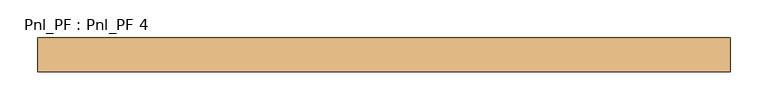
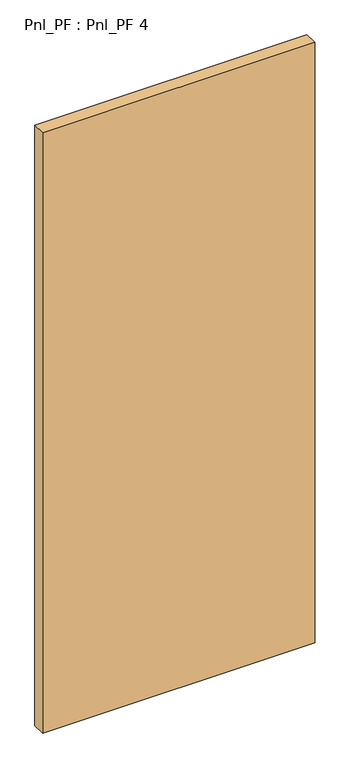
"""IFC4 building model written with IfcOpenShell, lengths in millimetres: door geometry, Pnl_PF : Pnl_PF 4."""

from ifc_helpers import new_model, si_unit, origin, origin_with_axes, place, context, project, spatial, polyline, outline, extrude, source, transform, mapped, element, save


def pnl_pf_pnl_pf_4_695aecbf(model_context):
    return source(origin(), model_context, "Body", "SweptSolid", [
        extrude(outline(polyline([(914.4, -44.45), (0.0, -44.45), (0.0, 0.0), (914.4, 0.0), (914.4, -44.45)])), origin_with_axes(), (0.0, 0.0, 1.0), 2133.6),
    ])


if __name__ == "__main__":
    model = new_model("IFC4")
    model_context = context("Model", 3, world=origin())
    ifc_project = project(units=[si_unit("LENGTHUNIT", "METRE", prefix="MILLI")], contexts=[model_context])
    site = spatial("IfcSite", under=ifc_project)
    building = spatial("IfcBuilding", under=site)
    placement = place(None, origin())
    pnl_pf_pnl_pf_4_shape = pnl_pf_pnl_pf_4_695aecbf(model_context)
    element("IfcDoor", 1, ObjectType="Pnl_PF : Pnl_PF 4", at=placement, inside=building, context=model_context, shape_type="MappedRepresentation", body=[
        mapped(pnl_pf_pnl_pf_4_shape, transform((0.0, 0.0, 0.0), x_axis=(1.0, 0.0, 0.0), y_axis=(0.0, 1.0, 0.0), z_axis=(0.0, 0.0, 1.0))),
    ])
    save(model, "model.ifc")
